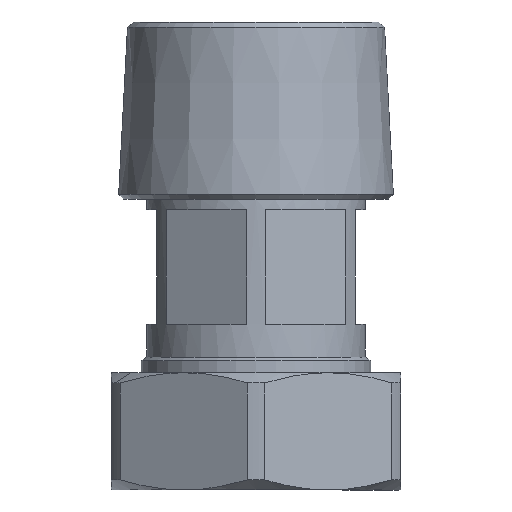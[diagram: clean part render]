
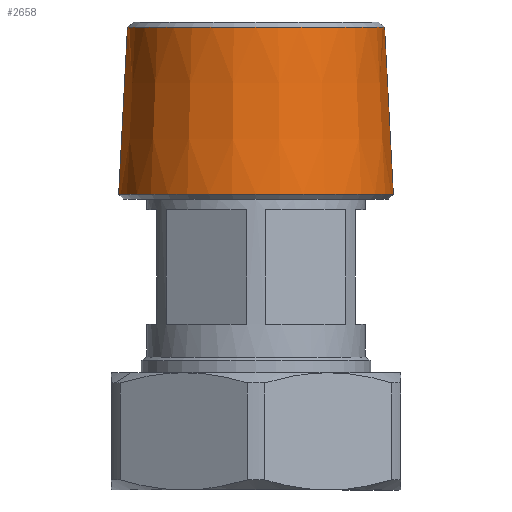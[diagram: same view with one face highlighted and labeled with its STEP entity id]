
A CAD part, front view. The second image highlights one B-rep face of the part: STEP entity #2658.
In plain terms, the highlighted conical face has half-angle 3 degrees and reference radius 13.2 mm.
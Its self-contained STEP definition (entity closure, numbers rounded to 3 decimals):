
#99 = DIRECTION ( 'NONE',  ( 0., 0., -1. ) ) ;
#391 = FACE_OUTER_BOUND ( 'NONE', #2046, .T. ) ;
#394 = CIRCLE ( 'NONE', #2051, 12.335 ) ;
#416 = CARTESIAN_POINT ( 'NONE',  ( 0., 0., 23.475 ) ) ;
#439 = CIRCLE ( 'NONE', #3694, 13.175 ) ;
#520 = VERTEX_POINT ( 'NONE', #1623 ) ;
#528 = VERTEX_POINT ( 'NONE', #1221 ) ;
#621 = EDGE_CURVE ( 'NONE', #520, #2822, #394, .T. ) ;
#635 = ORIENTED_EDGE ( 'NONE', *, *, #4512, .T. ) ;
#638 = AXIS2_PLACEMENT_3D ( 'NONE', #1193, #2622, #1148 ) ;
#725 = DIRECTION ( 'NONE',  ( 0.052, 0., -0.999 ) ) ;
#764 = ORIENTED_EDGE ( 'NONE', *, *, #2455, .F. ) ;
#1148 = DIRECTION ( 'NONE',  ( 1., 0., 0. ) ) ;
#1193 = CARTESIAN_POINT ( 'NONE',  ( 0., 0., 23. ) ) ;
#1221 = CARTESIAN_POINT ( 'NONE',  ( -13.175, 0., 23.475 ) ) ;
#1623 = CARTESIAN_POINT ( 'NONE',  ( 12.335, 0., 39.501 ) ) ;
#1719 = LINE ( 'NONE', #3942, #4056 ) ;
#1905 = CARTESIAN_POINT ( 'NONE',  ( 0., 0., 39.501 ) ) ;
#2041 = CARTESIAN_POINT ( 'NONE',  ( -12.335, 0., 39.501 ) ) ;
#2046 = EDGE_LOOP ( 'NONE', ( #2947, #2979, #635, #764 ) ) ;
#2051 = AXIS2_PLACEMENT_3D ( 'NONE', #1905, #99, #2969 ) ;
#2250 = DIRECTION ( 'NONE',  ( 0., 0., 1. ) ) ;
#2325 = VECTOR ( 'NONE', #3779, 1000. ) ;
#2455 = EDGE_CURVE ( 'NONE', #520, #4261, #1719, .T. ) ;
#2622 = DIRECTION ( 'NONE',  ( 0., 0., -1. ) ) ;
#2658 = ADVANCED_FACE ( 'NONE', ( #391 ), #3203, .T. ) ;
#2822 = VERTEX_POINT ( 'NONE', #2041 ) ;
#2947 = ORIENTED_EDGE ( 'NONE', *, *, #621, .T. ) ;
#2969 = DIRECTION ( 'NONE',  ( -1., 0., 0. ) ) ;
#2979 = ORIENTED_EDGE ( 'NONE', *, *, #4113, .T. ) ;
#3063 = CARTESIAN_POINT ( 'NONE',  ( 13.175, 0., 23.475 ) ) ;
#3203 = CONICAL_SURFACE ( 'NONE', #638, 13.2, 0.052 ) ;
#3694 = AXIS2_PLACEMENT_3D ( 'NONE', #416, #2250, #4460 ) ;
#3779 = DIRECTION ( 'NONE',  ( -0.052, 0., -0.999 ) ) ;
#3873 = LINE ( 'NONE', #4595, #2325 ) ;
#3942 = CARTESIAN_POINT ( 'NONE',  ( 13.2, 0., 23. ) ) ;
#4056 = VECTOR ( 'NONE', #725, 1000. ) ;
#4113 = EDGE_CURVE ( 'NONE', #2822, #528, #3873, .T. ) ;
#4261 = VERTEX_POINT ( 'NONE', #3063 ) ;
#4460 = DIRECTION ( 'NONE',  ( 1., 0., 0. ) ) ;
#4512 = EDGE_CURVE ( 'NONE', #528, #4261, #439, .T. ) ;
#4595 = CARTESIAN_POINT ( 'NONE',  ( -13.2, 0., 23. ) ) ;
